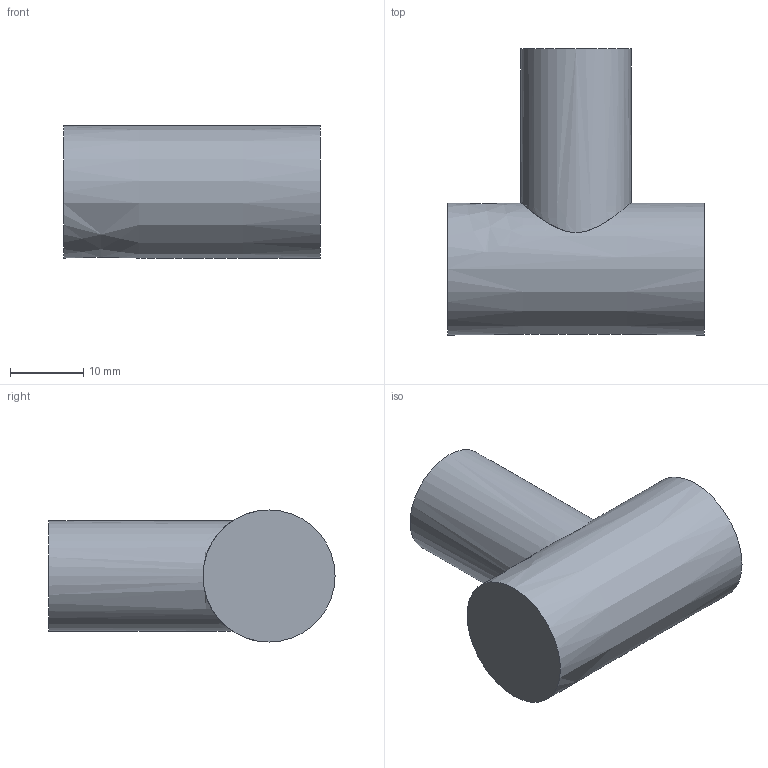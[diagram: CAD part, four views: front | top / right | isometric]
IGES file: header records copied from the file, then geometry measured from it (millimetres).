
Start section: Data from Parasolid IGES Translator 15.0.47, Copyright(c) 2006 Siemens P LM Software. All Rights Reserved.
Global section: file name: 9069816.igs; native system:  By UGS Corp.; preprocessor: XPlus GENERIC/IGES 3.0; author: Noname; organization: Noname; date: 20140122.135526; units: millimetre
Bounding box: 35 x 39 x 18 mm (x, y, z)
Surface area: 3669.3 mm2 (no closed solid volume)
Topology: 0 solids, 0 shells, 7 faces, 18 edges, 14 vertices
Faces by surface type: extrusion 4, revolution 3
